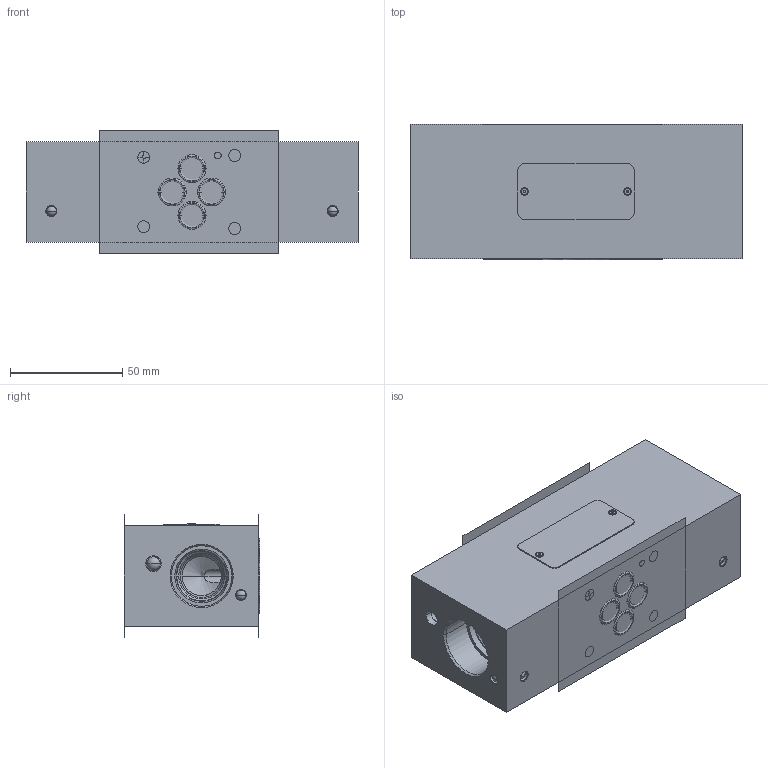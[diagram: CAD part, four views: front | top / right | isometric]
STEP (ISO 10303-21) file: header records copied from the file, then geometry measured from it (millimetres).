
FILE_DESCRIPTION((''),'2;1');
FILE_NAME('1000292329_ASM','2023-10-13T',('l.soukupova'),(''),'PRO/ENGINEER BY PARAMETRIC TECHNOLOGY CORPORATION, 2015440','PRO/ENGINEER BY PARAMETRIC TECHNOLOGY CORPORATION, 2015440','');
FILE_SCHEMA(('AUTOMOTIVE_DESIGN { 1 0 10303 214 1 1 1 1 }'));
Length unit declared in the file: millimetre
Products named in the file (7): 1000291252; RD_LABEL_25X52_159703; AF_1932_16485; ORAR00012_201524; MB850_050E; MB850_070E; 1000292329_ASM
Assembly tree (16 placements, depth 2):
  1000292329_ASM
    1000291252
    RD_LABEL_25X52_159703
    AF_1932_16485  x2
    ORAR00012_201524  x4
    MB850_050E  x4
    MB850_070E  x4
Bounding box: 148 x 60.38 x 55 mm (x, y, z)
Volume: 334130 mm3; surface area: 75143.3 mm2
Topology: 16 solids, 24 shells, 544 faces, 1414 edges, 1036 vertices
Faces by surface type: cone 245, cylinder 191, plane 56, torus 36, sphere 16
Entity records: 17174 total; most frequent: CARTESIAN_POINT 4425, DIRECTION 1839, ORIENTED_EDGE 1320, PRESENTATION_STYLE_ASSIGNMENT 1081, STYLED_ITEM 966, CURVE_STYLE 954, AXIS2_PLACEMENT_3D 700, EDGE_CURVE 676
